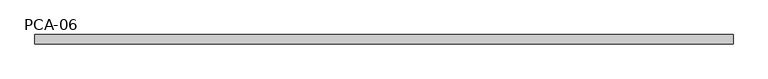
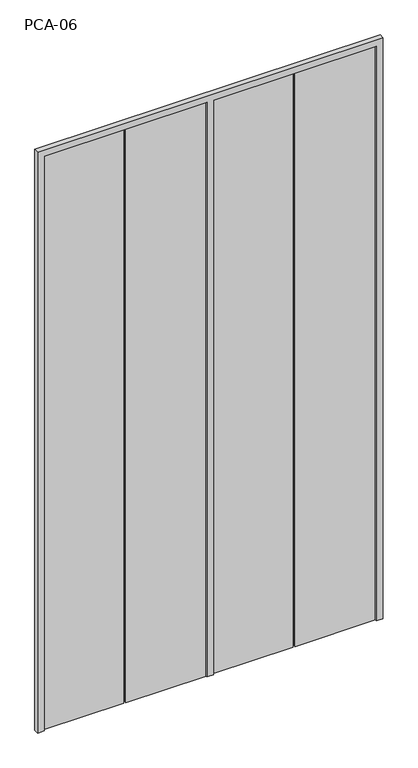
"""IFC4 building model written with IfcOpenShell, lengths in millimetres: furniture geometry, Puerta Closet abatible 4 hojas completas : PCA-06."""

import ifcopenshell
import ifcopenshell.guid

model = None  # the IFC model being written
_history = None  # IfcOwnerHistory: only IFC2X3 demands one
_inside = {}  # id of a spatial element -> (the spatial element, [elements in it])
_under = {}  # id of a project, library or spatial element -> (it, [spatial elements below it])
_declared = {}  # id of a project -> (the project, [libraries it declares])
_typed = {}  # id of a type object -> (the type object, [elements of that type])
_made_of = {}  # id of a material, layer set ... -> (it, [elements and type objects made of it])


def new_model(schema):
    """Start an empty IFC model of exactly this schema.

    Asked for "IFC4X3", IfcOpenShell would pick the latest addendum, in which some entities
    have other attributes; the version numbers below select the first issue.
    IFC2X3 requires an IfcOwnerHistory on every rooted entity: one is made here for all.
    """
    global model, _history
    if schema == "IFC4X3":
        model = ifcopenshell.file(schema_version=(4, 3, 0, 0))
    else:
        model = ifcopenshell.file(schema=schema)
    _inside.clear()
    _under.clear()
    _declared.clear()
    _typed.clear()
    _made_of.clear()
    _history = None
    if model.schema == "IFC2X3":
        org = make("IfcOrganization", Name="unknown")
        user = make(
            "IfcPersonAndOrganization",
            ThePerson=make("IfcPerson", FamilyName="unknown"),
            TheOrganization=org,
        )
        app = make(
            "IfcApplication",
            ApplicationDeveloper=org,
            Version="unknown",
            ApplicationFullName="unknown",
            ApplicationIdentifier="unknown",
        )
        _history = make(
            "IfcOwnerHistory",
            OwningUser=user,
            OwningApplication=app,
            ChangeAction="ADDED",
            CreationDate=0,
        )
    return model


def make(cls, **values):
    """One entity of the class cls with the attributes given. An attribute that is None is left unset."""
    return model.create_entity(
        cls, **{name: value for name, value in values.items() if value is not None}
    )


def rooted(cls, **values):
    """An entity with a GlobalId (a new one), such as an element, a storey or a relation."""
    return make(cls, GlobalId=ifcopenshell.guid.new(), OwnerHistory=_history, **values)


def si_unit(unit_type, name, prefix=None):
    """IfcSIUnit, for example si_unit("LENGTHUNIT", "METRE", prefix="MILLI")."""
    return make("IfcSIUnit", UnitType=unit_type, Prefix=prefix, Name=name)


def assignment(units):
    """IfcUnitAssignment: the units of a project."""
    return None if units is None else make("IfcUnitAssignment", Units=units)


def point(xyz):
    """IfcCartesianPoint."""
    return None if xyz is None else make("IfcCartesianPoint", Coordinates=xyz)


def direction(xyz):
    """IfcDirection."""
    return None if xyz is None else make("IfcDirection", DirectionRatios=xyz)


def frame(location, z_axis=None, x_axis=None):
    """IfcAxis2Placement3D, a coordinate frame: its origin and axes. An axis left out is left unset."""
    return make(
        "IfcAxis2Placement3D",
        Location=point(location),
        Axis=direction(z_axis),
        RefDirection=direction(x_axis),
    )


def origin():
    """The frame at (0, 0, 0) with its axes left unset."""
    return frame((0.0, 0.0, 0.0))


def origin_with_axes():
    """The frame at (0, 0, 0) with the z axis (0, 0, 1) and the x axis (1, 0, 0) written out."""
    return frame((0.0, 0.0, 0.0), z_axis=(0.0, 0.0, 1.0), x_axis=(1.0, 0.0, 0.0))


def place(relative_to, where):
    """IfcLocalPlacement: puts the frame where relative to a parent placement (None: the world)."""
    return make(
        "IfcLocalPlacement", PlacementRelTo=relative_to, RelativePlacement=where
    )


def context(
    kind, dimensions, precision=None, world=None, true_north=None, identifier=None
):
    """IfcGeometricRepresentationContext, for example the 3D "Model" context."""
    return make(
        "IfcGeometricRepresentationContext",
        ContextIdentifier=identifier,
        ContextType=kind,
        CoordinateSpaceDimension=dimensions,
        Precision=precision,
        WorldCoordinateSystem=world,
        TrueNorth=true_north,
    )


def project(units=None, contexts=None):
    """IfcProject with its units and contexts."""
    return rooted(
        "IfcProject",
        Name="project",
        RepresentationContexts=contexts,
        UnitsInContext=assignment(units),
    )


def spatial(cls, under=None, at=None, **own):
    """A site, building, storey or space (cls), placed at a placement, below another one or the project."""
    s = rooted(cls, ObjectPlacement=at, **own)
    if under is not None:
        _under.setdefault(under.id(), (under, []))[1].append(s)
    return s


def polyline(points):
    """IfcPolyline through the points."""
    return make("IfcPolyline", Points=[point(p) for p in points])


def outline(outer, holes=None, kind="AREA"):
    """IfcArbitraryClosedProfileDef: a profile drawn as a closed curve; with holes, ...WithVoids."""
    if holes is None:
        return make("IfcArbitraryClosedProfileDef", ProfileType=kind, OuterCurve=outer)
    return make(
        "IfcArbitraryProfileDefWithVoids",
        ProfileType=kind,
        OuterCurve=outer,
        InnerCurves=holes,
    )


def extrude(swept, where, along, depth):
    """IfcExtrudedAreaSolid: the profile swept, set in the frame where, extruded along a direction by depth."""
    return make(
        "IfcExtrudedAreaSolid",
        SweptArea=swept,
        Position=where,
        ExtrudedDirection=direction(along),
        Depth=depth,
    )


def shape(context_of_items, identifier, shape_type, items):
    """IfcShapeRepresentation: the items that make up one representation, for example the "Body"."""
    return make(
        "IfcShapeRepresentation",
        ContextOfItems=context_of_items,
        RepresentationIdentifier=identifier,
        RepresentationType=shape_type,
        Items=items,
    )


def source(mapping_origin, context_of_items, identifier, shape_type, items):
    """IfcRepresentationMap: a shape defined once, which mapped items show again and again."""
    return make(
        "IfcRepresentationMap",
        MappingOrigin=mapping_origin,
        MappedRepresentation=shape(context_of_items, identifier, shape_type, items),
    )


def transform(
    local_origin,
    x_axis=None,
    y_axis=None,
    z_axis=None,
    scale=None,
    scale2=None,
    scale3=None,
    uniform=True,
):
    """IfcCartesianTransformationOperator3D, or its non-uniform kind. x_axis, y_axis, z_axis: its Axis1, 2, 3."""
    if uniform:
        return make(
            "IfcCartesianTransformationOperator3D",
            Axis1=direction(x_axis),
            Axis2=direction(y_axis),
            LocalOrigin=point(local_origin),
            Scale=scale,
            Axis3=direction(z_axis),
        )
    return make(
        "IfcCartesianTransformationOperator3DnonUniform",
        Axis1=direction(x_axis),
        Axis2=direction(y_axis),
        LocalOrigin=point(local_origin),
        Scale=scale,
        Axis3=direction(z_axis),
        Scale2=scale2,
        Scale3=scale3,
    )


def mapped(mapping_source, mapping_target):
    """IfcMappedItem: shows the shape of a source again, moved by a transform."""
    return make(
        "IfcMappedItem", MappingSource=mapping_source, MappingTarget=mapping_target
    )


def made_of(thing, what):
    """Note that an element or type object is made of a material, layer set ...; save() writes the relation."""
    if what is not None:
        _made_of.setdefault(what.id(), (what, []))[1].append(thing)
    return thing


def element(
    cls,
    number,
    at=None,
    inside=None,
    cuts=None,
    type_object=None,
    material=None,
    context=None,
    identifier="Body",
    shape_type=None,
    held_by="IfcProductDefinitionShape",
    body=None,
    shapes=None,
    **own,
):
    """One element of the class cls, such as IfcWall. Its Tag is "e" and its number.

    at: its placement. inside: the storey or other place that contains it. cuts: it is an
    opening in that element (IfcRelVoidsElement). A single representation is given by context,
    identifier, shape_type and body (its items); several are given by shapes. held_by: the class
    of the entity that holds the representations. save() writes the other relations.
    """
    e = rooted(cls, Tag="e%d" % number, ObjectPlacement=at, **own)
    if body is not None:
        shapes = [shape(context, identifier, shape_type, body)]
    if shapes is not None:
        e.Representation = make(held_by, Representations=shapes)
    if inside is not None:
        _inside.setdefault(inside.id(), (inside, []))[1].append(e)
    if cuts is not None:
        rooted(
            "IfcRelVoidsElement", RelatingBuildingElement=cuts, RelatedOpeningElement=e
        )
    if type_object is not None:
        _typed.setdefault(type_object.id(), (type_object, []))[1].append(e)
    return made_of(e, material)


def aggregate(whole, parts):
    """IfcRelAggregates: a whole, such as a stair, and the parts it consists of."""
    return rooted("IfcRelAggregates", RelatingObject=whole, RelatedObjects=parts)


def save(model, path):
    """Write the relations noted so far, then the file.

    IfcRelAggregates (storeys below a building ...), IfcRelContainedInSpatialStructure (elements
    in a storey), IfcRelDefinesByType, IfcRelAssociatesMaterial and IfcRelDeclares: one each for
    every whole, place, type object, material and project.
    """
    for whole, parts in _under.values():
        aggregate(whole, parts)
    for where, things in _inside.values():
        rooted(
            "IfcRelContainedInSpatialStructure",
            RelatedElements=things,
            RelatingStructure=where,
        )
    for kind, things in _typed.values():
        rooted("IfcRelDefinesByType", RelatedObjects=things, RelatingType=kind)
    for what, things in _made_of.values():
        rooted("IfcRelAssociatesMaterial", RelatedObjects=things, RelatingMaterial=what)
    for by, libraries in _declared.values():
        rooted("IfcRelDeclares", RelatingContext=by, RelatedDefinitions=libraries)
    model.write(path)


def pca_06_863b1323(model_context):
    return source(origin(), model_context, "Body", "SweptSolid", [
        extrude(outline(polyline([(200.0, 86.6666667), (-152.5, 86.6666667), (-152.5, 93.3333333), (200.0, 93.3333333), (200.0, 86.6666667)])), origin_with_axes(), (0.0, 0.0, 1.0), 2670.0),
        extrude(outline(polyline([(0.0, -1290.0), (0.0, -1260.0), (2670.0, -1260.0), (2670.0, -545.0), (0.0, -545.0), (0.0, -515.0), (2670.0, -515.0), (2670.0, 200.0), (0.0, 200.0), (0.0, 230.0), (2700.0, 230.0), (2700.0, -1290.0), (0.0, -1290.0)])), frame((0.0, 80.0, 0.0), z_axis=(0.0, 1.0, 0.0), x_axis=(0.0, 0.0, 1.0)), (0.0, 0.0, 1.0), 20.0),
        extrude(outline(polyline([(-907.5, 86.6666667), (-1260.0, 86.6666667), (-1260.0, 93.3333333), (-907.5, 93.3333333), (-907.5, 86.6666667)])), origin_with_axes(), (0.0, 0.0, 1.0), 2670.0),
        extrude(outline(polyline([(-162.5, 86.6666667), (-515.0, 86.6666667), (-515.0, 93.3333333), (-162.5, 93.3333333), (-162.5, 86.6666667)])), origin_with_axes(), (0.0, 0.0, 1.0), 2670.0),
        extrude(outline(polyline([(-545.0, 86.6666667), (-897.5, 86.6666667), (-897.5, 93.3333333), (-545.0, 93.3333333), (-545.0, 86.6666667)])), origin_with_axes(), (0.0, 0.0, 1.0), 2670.0),
    ])


if __name__ == "__main__":
    model = new_model("IFC4")
    model_context = context("Model", 3, world=origin())
    ifc_project = project(units=[si_unit("LENGTHUNIT", "METRE", prefix="MILLI")], contexts=[model_context])
    site = spatial("IfcSite", under=ifc_project)
    building = spatial("IfcBuilding", under=site)
    placement = place(None, origin())
    pca_06_shape = pca_06_863b1323(model_context)
    element("IfcFurniture", 1, ObjectType="Puerta Closet abatible 4 hojas completas : PCA-06", at=placement, inside=building, context=model_context, shape_type="MappedRepresentation", body=[
        mapped(pca_06_shape, transform((0.0, 0.0, 0.0), x_axis=(1.0, 0.0, 0.0), y_axis=(0.0, 1.0, 0.0), z_axis=(0.0, 0.0, 1.0))),
    ])
    save(model, "model.ifc")
